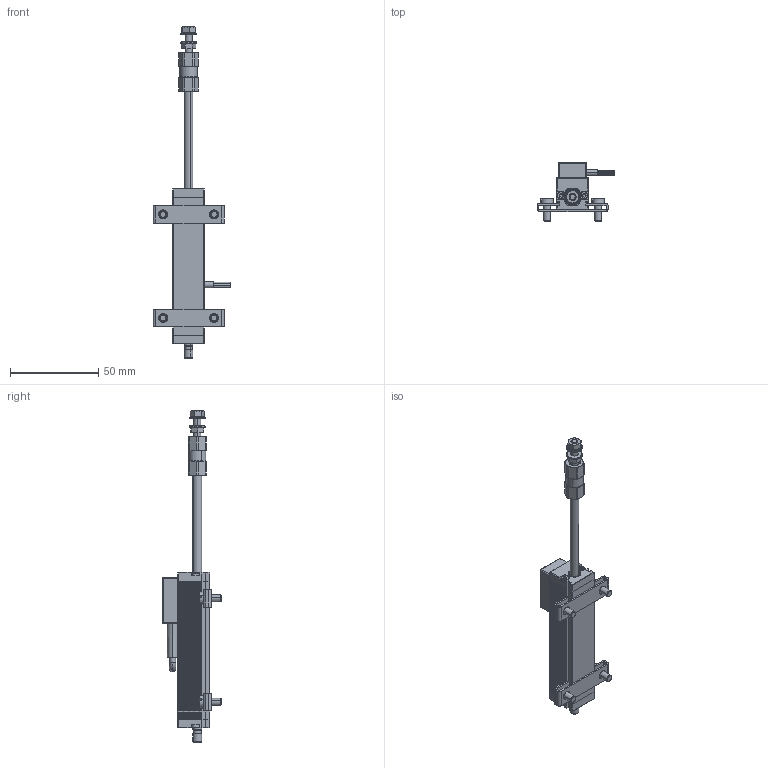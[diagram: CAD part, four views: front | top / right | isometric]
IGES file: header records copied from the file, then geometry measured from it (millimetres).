
Start section: SolidWorks IGES file using analytic representation for surfaces
Global section: file name: E:\Salzinger\I-net_3D\T-Serie_Essentials\T_TS_TR_TRS_-_SLDPRTs\T_050.IGS; native system: SolidWorks 2008; preprocessor: SolidWorks 2008; author: salzinger; date: 081105.105853; units: millimetre
Bounding box: 44.08 x 33.2 x 188 mm (x, y, z)
Surface area: 23405.4 mm2 (no closed solid volume)
Topology: 0 solids, 0 shells, 1154 faces, 11908 edges, 11890 vertices
Faces by surface type: revolution 704, bspline 450
